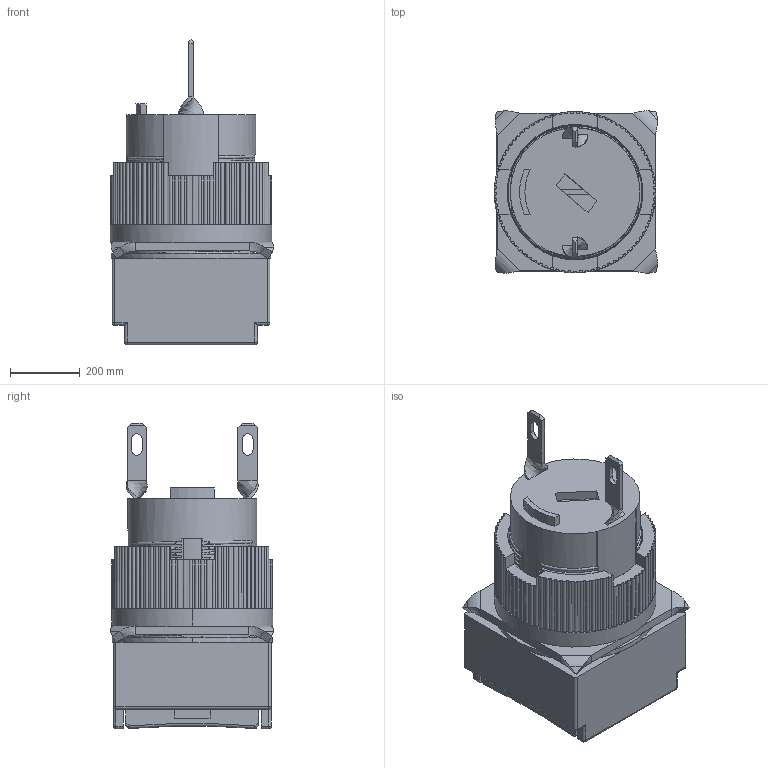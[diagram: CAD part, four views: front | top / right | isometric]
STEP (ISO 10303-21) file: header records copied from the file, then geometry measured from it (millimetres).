
FILE_DESCRIPTION((''),'2;1');
FILE_NAME('ASM0002_ASM','2016-06-03T',('Administrator'),(''),'PRO/ENGINEER BY PARAMETRIC TECHNOLOGY CORPORATION, 2012360','PRO/ENGINEER BY PARAMETRIC TECHNOLOGY CORPORATION, 2012360','');
FILE_SCHEMA(('CONFIG_CONTROL_DESIGN'));
Length unit declared in the file: inch
Products named in the file (1): ASM0002_ASM
Bounding box: 467.82 x 465.73 x 874.76 mm (x, y, z)
Volume: 103845119.6 mm3; surface area: 2721991.2 mm2
Topology: 1 solids, 5 shells, 765 faces, 2022 edges, 1276 vertices
Faces by surface type: cylinder 353, plane 313, bspline 85, sphere 12, torus 2
Entity records: 35717 total; most frequent: CARTESIAN_POINT 17242, ORIENTED_EDGE 4044, DIRECTION 3670, EDGE_CURVE 2022, AXIS2_PLACEMENT_3D 1379, VERTEX_POINT 1276, VECTOR 912, LINE 912
